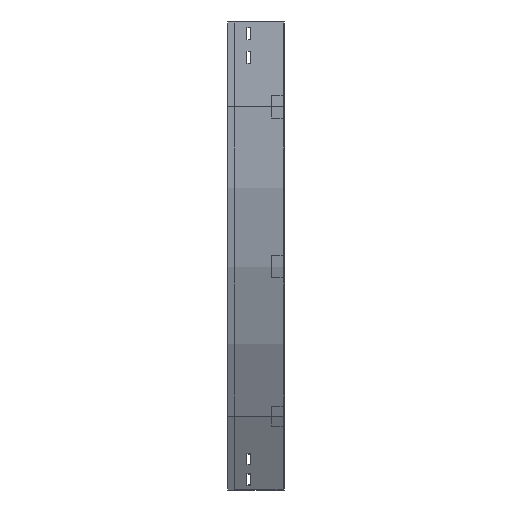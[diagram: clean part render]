
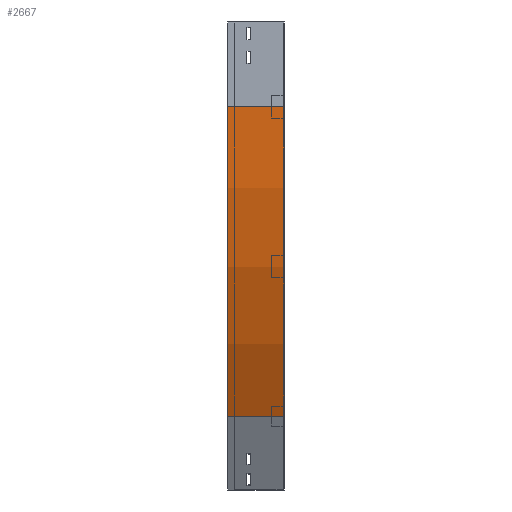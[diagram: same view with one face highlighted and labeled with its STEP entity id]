
A CAD part, left-side view. The second image highlights one B-rep face of the part: STEP entity #2667.
In plain terms, the highlighted cylindrical face has radius 1100 mm (diameter 2200 mm), a partial arc.
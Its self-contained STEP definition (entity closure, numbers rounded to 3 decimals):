
#221 = DIRECTION ( 'NONE',  ( -1., 0., 0. ) ) ;
#575 = VERTEX_POINT ( 'NONE', #3213 ) ;
#685 = CARTESIAN_POINT ( 'NONE',  ( 1100., 0., -150. ) ) ;
#806 = EDGE_CURVE ( 'NONE', #899, #575, #1344, .T. ) ;
#876 = LINE ( 'NONE', #2067, #2659 ) ;
#892 = CARTESIAN_POINT ( 'NONE',  ( 0., 0., -150. ) ) ;
#899 = VERTEX_POINT ( 'NONE', #3208 ) ;
#964 = ORIENTED_EDGE ( 'NONE', *, *, #806, .T. ) ;
#972 = CYLINDRICAL_SURFACE ( 'NONE', #1511, 1100. ) ;
#1089 = VERTEX_POINT ( 'NONE', #1855 ) ;
#1344 = CIRCLE ( 'NONE', #3707, 1100. ) ;
#1357 = DIRECTION ( 'NONE',  ( 0., -1., 0. ) ) ;
#1468 = DIRECTION ( 'NONE',  ( 0., -1., 0. ) ) ;
#1511 = AXIS2_PLACEMENT_3D ( 'NONE', #685, #1895, #3611 ) ;
#1675 = DIRECTION ( 'NONE',  ( 0., -1., 0. ) ) ;
#1760 = VERTEX_POINT ( 'NONE', #892 ) ;
#1778 = EDGE_CURVE ( 'NONE', #575, #1089, #876, .T. ) ;
#1803 = AXIS2_PLACEMENT_3D ( 'NONE', #2545, #3734, #221 ) ;
#1855 = CARTESIAN_POINT ( 'NONE',  ( 147.372, 0., -700. ) ) ;
#1895 = DIRECTION ( 'NONE',  ( 0., -1., 0. ) ) ;
#2001 = ORIENTED_EDGE ( 'NONE', *, *, #1778, .T. ) ;
#2067 = CARTESIAN_POINT ( 'NONE',  ( 147.372, 0., -700. ) ) ;
#2214 = DIRECTION ( 'NONE',  ( -1., 0., 0. ) ) ;
#2218 = ORIENTED_EDGE ( 'NONE', *, *, #3634, .F. ) ;
#2524 = CARTESIAN_POINT ( 'NONE',  ( 0., 0., -150. ) ) ;
#2545 = CARTESIAN_POINT ( 'NONE',  ( 1100., 0., -150. ) ) ;
#2659 = VECTOR ( 'NONE', #1468, 1000. ) ;
#2667 = ADVANCED_FACE ( 'NONE', ( #3689 ), #972, .T. ) ;
#2920 = CIRCLE ( 'NONE', #1803, 1100. ) ;
#3124 = CARTESIAN_POINT ( 'NONE',  ( 1100., 100., -150. ) ) ;
#3208 = CARTESIAN_POINT ( 'NONE',  ( 0., 100., -150. ) ) ;
#3213 = CARTESIAN_POINT ( 'NONE',  ( 147.372, 100., -700. ) ) ;
#3430 = ORIENTED_EDGE ( 'NONE', *, *, #3704, .F. ) ;
#3483 = LINE ( 'NONE', #2524, #3673 ) ;
#3491 = EDGE_LOOP ( 'NONE', ( #3430, #2218, #964, #2001 ) ) ;
#3611 = DIRECTION ( 'NONE',  ( 0., 0., -1. ) ) ;
#3634 = EDGE_CURVE ( 'NONE', #899, #1760, #3483, .T. ) ;
#3673 = VECTOR ( 'NONE', #1357, 1000. ) ;
#3689 = FACE_OUTER_BOUND ( 'NONE', #3491, .T. ) ;
#3704 = EDGE_CURVE ( 'NONE', #1760, #1089, #2920, .T. ) ;
#3707 = AXIS2_PLACEMENT_3D ( 'NONE', #3124, #1675, #2214 ) ;
#3734 = DIRECTION ( 'NONE',  ( 0., -1., 0. ) ) ;
